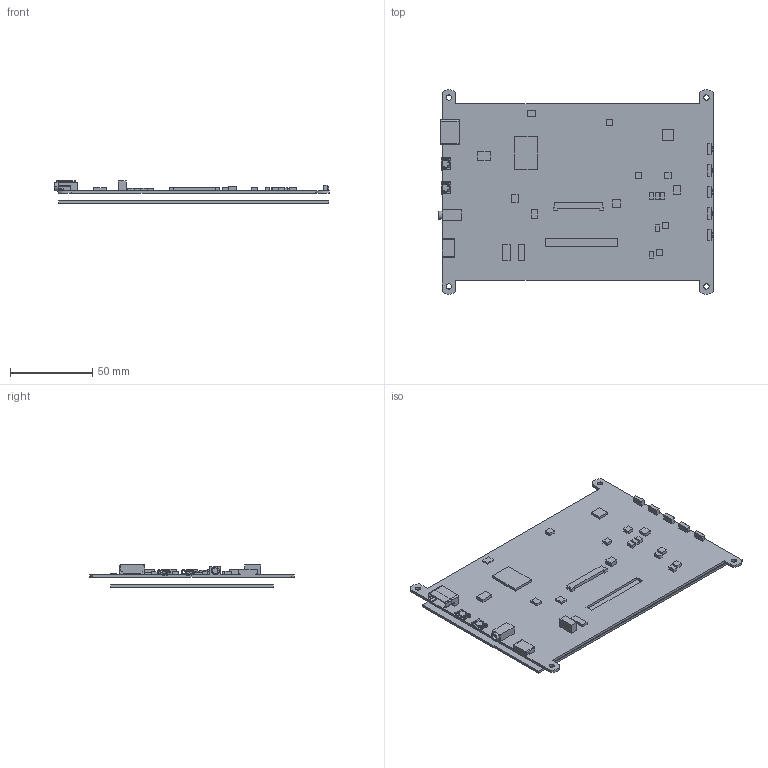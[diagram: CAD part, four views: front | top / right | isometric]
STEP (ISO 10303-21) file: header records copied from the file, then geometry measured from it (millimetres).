
FILE_DESCRIPTION((''),'2;1');
FILE_NAME('0713-3','2018-07-13T',('Administrator'),(''),'PRO/ENGINEER BY PARAMETRIC TECHNOLOGY CORPORATION, 2001280','PRO/ENGINEER BY PARAMETRIC TECHNOLOGY CORPORATION, 2001280','');
FILE_SCHEMA(('CONFIG_CONTROL_DESIGN'));
Length unit declared in the file: millimetre
Products named in the file (1): 0713-3
Bounding box: 167.15 x 124.5 x 13.95 mm (x, y, z)
Volume: 56024.6 mm3; surface area: 72851.4 mm2
Topology: 2 solids, 2 shells, 785 faces, 2212 edges, 1453 vertices
Faces by surface type: plane 517, cylinder 268
Entity records: 25519 total; most frequent: CARTESIAN_POINT 4730, ORIENTED_EDGE 4424, DIRECTION 4247, EDGE_CURVE 2212, VECTOR 1635, LINE 1635, VERTEX_POINT 1453, AXIS2_PLACEMENT_3D 1306
